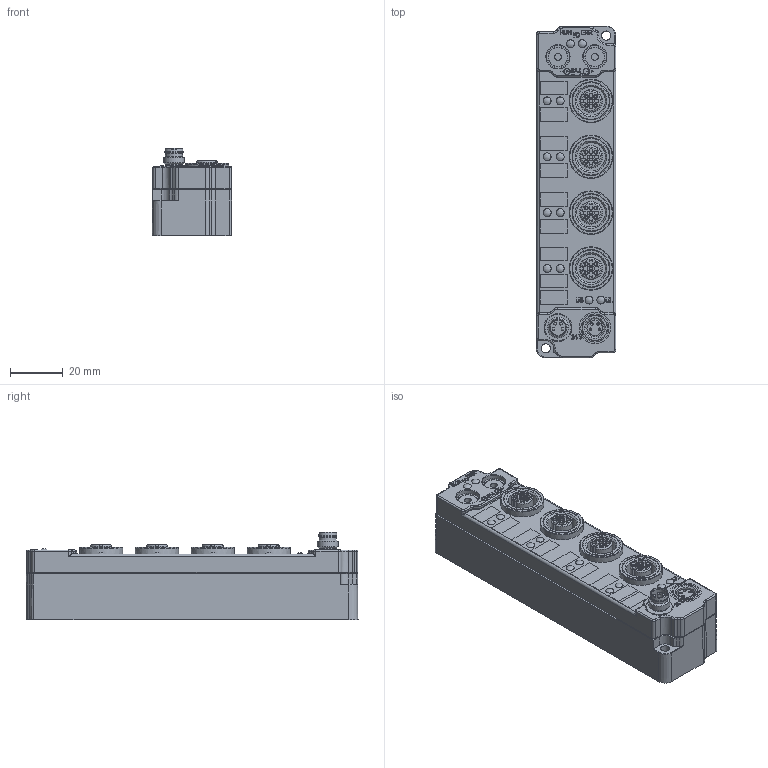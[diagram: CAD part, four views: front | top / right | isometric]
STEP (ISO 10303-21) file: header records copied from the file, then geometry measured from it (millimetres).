
FILE_DESCRIPTION((''),'2;1');
FILE_NAME('C:\TurckZip\SNNE-0800D-M12.stp','2008-02-19T08:02:48',('IKOROL'),(''),'Autodesk Inventor 2008','Autodesk Inventor 2008','');
FILE_SCHEMA(('CONFIG_CONTROL_DESIGN'));
Length unit declared in the file: millimetre
Products named in the file (1): Part2
Bounding box: 30.3 x 126.31 x 33.3 mm (x, y, z)
Volume: 81696.7 mm3; surface area: 33301.1 mm2
Topology: 1 solids, 13 shells, 1065 faces, 2535 edges, 1642 vertices
Faces by surface type: plane 479, cylinder 304, bspline 129, cone 104, torus 33, sphere 16
Full cylindrical faces by diameter (mm): 1 x8, 1.1 x16, 1.2 x4, 1.4 x4, 1.5 x20, 1.6 x4, 2.6 x2, 2.8 x12, 3 x12, 3.05 x24, 3.5 x2, 5.7 x3, 5.8 x1, 6.5 x2, 6.8 x1, 6.899 x1, 6.95 x1, 7.2 x2, 7.5 x2, 8 x2, 8.1 x4, 8.6 x1, 8.7 x2, 9 x4, 10 x2, 10.9 x4, 12 x1, 12.751 x4, 12.951 x4, 14.3 x4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
Entity records: 32719 total; most frequent: CARTESIAN_POINT 8538, DIRECTION 4695, ORIENTED_EDGE 4294, EDGE_CURVE 2147, AXIS2_PLACEMENT_3D 1771, EDGE_LOOP 1576, VERTEX_POINT 1565, VECTOR 1153
